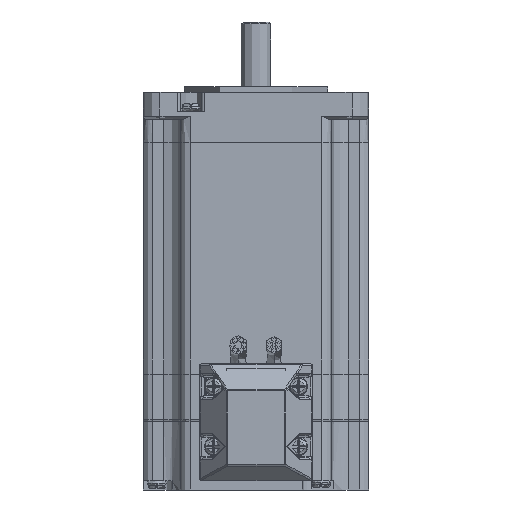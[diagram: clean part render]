
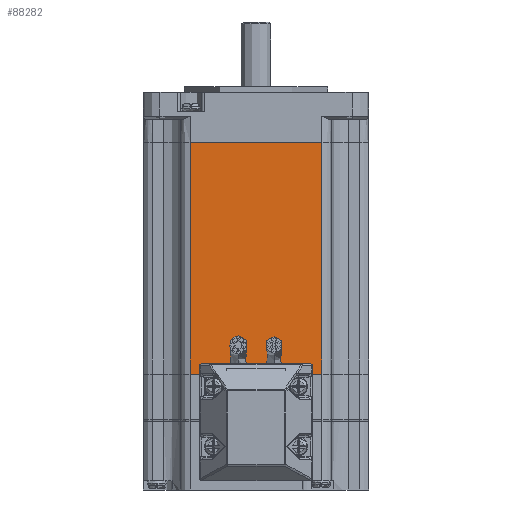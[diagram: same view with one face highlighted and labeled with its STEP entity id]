
A CAD part, front view. The second image highlights one B-rep face of the part: STEP entity #88282.
In plain terms, the highlighted planar face has unit normal (0, -1, 0).
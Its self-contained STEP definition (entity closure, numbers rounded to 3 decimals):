
#28982 = EDGE_CURVE ( 'NONE', #92381, #92600, #117248, .T. ) ;
#28986 = EDGE_CURVE ( 'NONE', #93881, #92465, #117250, .T. ) ;
#28989 = EDGE_CURVE ( 'NONE', #92600, #92465, #117252, .T. ) ;
#28990 = EDGE_CURVE ( 'NONE', #93881, #92381, #117253, .T. ) ;
#29986 = EDGE_LOOP ( 'NONE', ( #47980, #47992, #47987, #47993 ) ) ;
#44094 = DIRECTION ( 'NONE',  ( 0., 0., 1. ) ) ;
#44095 = CARTESIAN_POINT ( 'NONE',  ( -17.5, -30., 30.75 ) ) ;
#44096 = DIRECTION ( 'NONE',  ( 0., 0., -1. ) ) ;
#44097 = CARTESIAN_POINT ( 'NONE',  ( 17.5, -30., 30.75 ) ) ;
#44103 = DIRECTION ( 'NONE',  ( 1., 0., 0. ) ) ;
#44104 = CARTESIAN_POINT ( 'NONE',  ( -17.5, -30., -30.75 ) ) ;
#44113 = DIRECTION ( 'NONE',  ( 1., 0., 0. ) ) ;
#44114 = CARTESIAN_POINT ( 'NONE',  ( 27.5, -30., 30.75 ) ) ;
#47980 = ORIENTED_EDGE ( 'NONE', *, *, #28990, .F. ) ;
#47987 = ORIENTED_EDGE ( 'NONE', *, *, #28989, .F. ) ;
#47992 = ORIENTED_EDGE ( 'NONE', *, *, #28986, .T. ) ;
#47993 = ORIENTED_EDGE ( 'NONE', *, *, #28982, .F. ) ;
#81652 = VECTOR ( 'NONE', #44113, 1000. ) ;
#81659 = VECTOR ( 'NONE', #44103, 1000. ) ;
#81662 = VECTOR ( 'NONE', #44096, 1000. ) ;
#81663 = VECTOR ( 'NONE', #44094, 1000. ) ;
#88282 = ADVANCED_FACE ( 'NONE', ( #104625 ), #105935, .F. ) ;
#92381 = VERTEX_POINT ( 'NONE', #122876 ) ;
#92465 = VERTEX_POINT ( 'NONE', #122915 ) ;
#92600 = VERTEX_POINT ( 'NONE', #122973 ) ;
#93881 = VERTEX_POINT ( 'NONE', #123033 ) ;
#103796 = AXIS2_PLACEMENT_3D ( 'NONE', #105937, #105939, #105940 ) ;
#104625 = FACE_OUTER_BOUND ( 'NONE', #29986, .T. ) ;
#105935 = PLANE ( 'NONE',  #103796 ) ;
#105937 = CARTESIAN_POINT ( 'NONE',  ( -17.5, -30., 30.75 ) ) ;
#105939 = DIRECTION ( 'NONE',  ( 0., 1., 0. ) ) ;
#105940 = DIRECTION ( 'NONE',  ( 0., 0., 1. ) ) ;
#117248 = LINE ( 'NONE', #44114, #81652 ) ;
#117250 = LINE ( 'NONE', #44104, #81659 ) ;
#117252 = LINE ( 'NONE', #44097, #81662 ) ;
#117253 = LINE ( 'NONE', #44095, #81663 ) ;
#122876 = CARTESIAN_POINT ( 'NONE',  ( -17.5, -30., 30.75 ) ) ;
#122915 = CARTESIAN_POINT ( 'NONE',  ( 17.5, -30., -30.75 ) ) ;
#122973 = CARTESIAN_POINT ( 'NONE',  ( 17.5, -30., 30.75 ) ) ;
#123033 = CARTESIAN_POINT ( 'NONE',  ( -17.5, -30., -30.75 ) ) ;
